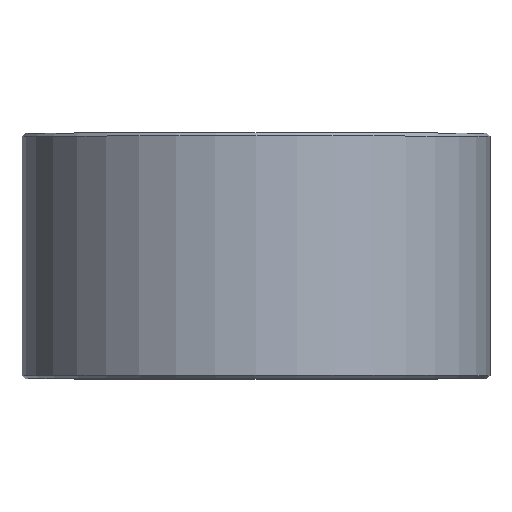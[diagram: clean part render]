
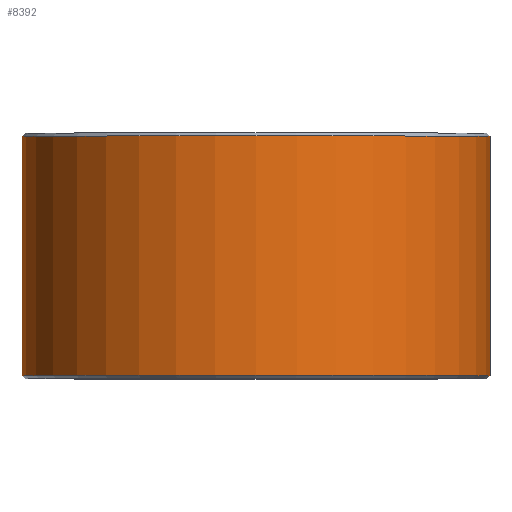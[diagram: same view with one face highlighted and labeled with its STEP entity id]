
A CAD part, top view. The second image highlights one B-rep face of the part: STEP entity #8392.
In plain terms, the highlighted cylindrical face has radius 15.25 mm (diameter 30.5 mm), a partial arc.
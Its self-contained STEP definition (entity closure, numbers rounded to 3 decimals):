
#3745=CARTESIAN_POINT('',(0.,0.2,0.));
#3746=DIRECTION('',(0.,-1.,0.));
#3747=DIRECTION('',(1.,0.,0.));
#3748=AXIS2_PLACEMENT_3D('',#3745,#3746,#3747);
#3750=DIRECTION('',(0.,1.,0.));
#3751=VECTOR('',#3750,15.6);
#3752=CARTESIAN_POINT('',(-15.25,0.2,
0.));
#3753=LINE('',#3752,#3751);
#3754=CARTESIAN_POINT('',(0.,15.8,0.));
#3755=DIRECTION('',(0.,1.,0.));
#3756=DIRECTION('',(-1.,0.,0.));
#3757=AXIS2_PLACEMENT_3D('',#3754,#3755,#3756);
#3772=DIRECTION('',(0.,1.,0.));
#3773=VECTOR('',#3772,15.6);
#3774=CARTESIAN_POINT('',(15.25,0.2,
0.));
#3775=LINE('',#3774,#3773);
#3950=CARTESIAN_POINT('',(-15.25,0.2,0.));
#3951=CARTESIAN_POINT('',(15.25,0.2,0.));
#3952=VERTEX_POINT('',#3950);
#3953=VERTEX_POINT('',#3951);
#3958=CARTESIAN_POINT('',(15.25,15.8,0.));
#3959=CARTESIAN_POINT('',(-15.25,15.8,0.));
#3960=VERTEX_POINT('',#3958);
#3961=VERTEX_POINT('',#3959);
#8378=CARTESIAN_POINT('',(0.,0.,0.));
#8379=DIRECTION('',(0.,1.,0.));
#8380=DIRECTION('',(1.,0.,0.));
#8381=AXIS2_PLACEMENT_3D('',#8378,#8379,#8380);
#8382=CYLINDRICAL_SURFACE('',#8381,15.25);
#8384=ORIENTED_EDGE('',*,*,#8383,.T.);
#8386=ORIENTED_EDGE('',*,*,#8385,.T.);
#8387=ORIENTED_EDGE('',*,*,#8372,.T.);
#8389=ORIENTED_EDGE('',*,*,#8388,.F.);
#8390=EDGE_LOOP('',(#8384,#8386,#8387,#8389));
#8391=FACE_OUTER_BOUND('',#8390,.F.);
#8392=ADVANCED_FACE('',(#8391),#8382,.T.);
#3749=CIRCLE('',#3748,15.25);
#3758=CIRCLE('',#3757,15.25);
#8372=EDGE_CURVE('',#3961,#3960,#3758,.T.);
#8383=EDGE_CURVE('',#3953,#3952,#3749,.T.);
#8385=EDGE_CURVE('',#3952,#3961,#3753,.T.);
#8388=EDGE_CURVE('',#3953,#3960,#3775,.T.);
